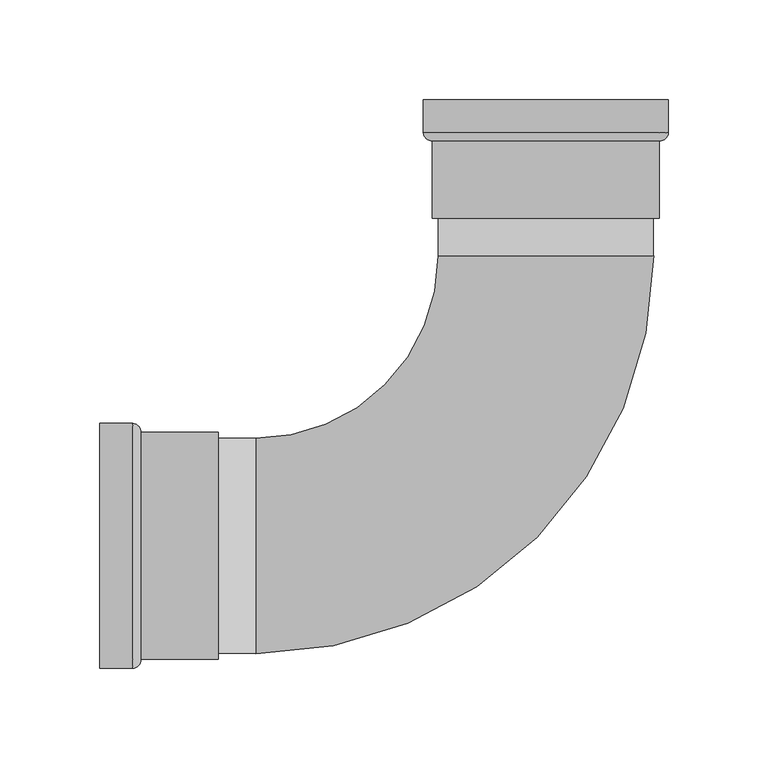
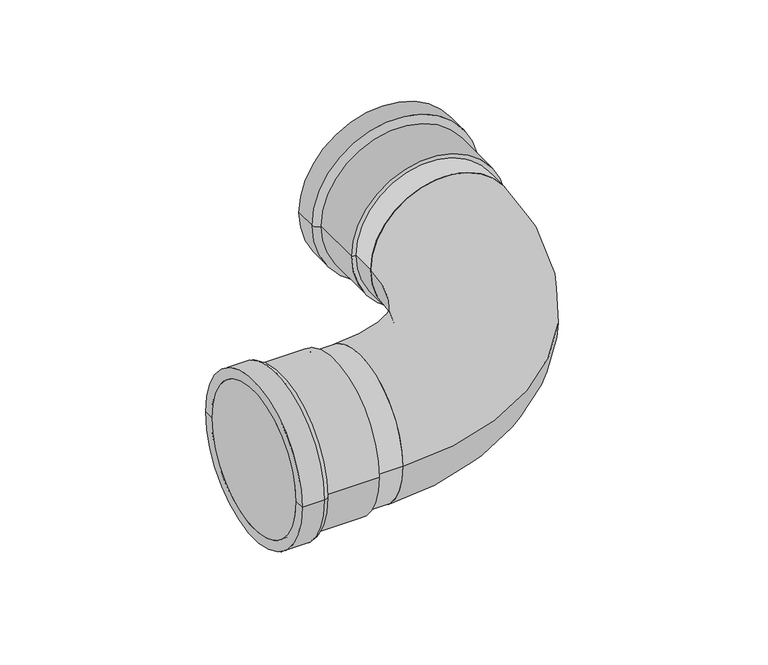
"""IFC4 building model written with IfcOpenShell, lengths in millimetres: pipe fitting geometry, VALTEC_VTi.951.I_Угольник 90° (раструб-раструб) нержавеющая сталь : VTi.951.I."""

from ifc_helpers import new_model, si_unit, point, frame, origin, origin_2d, place, context, project, spatial, polyline, circle_curve, ellipse_curve, trimmed, segment, composite_curve, outline, extrude, source, transform, mapped, element, save
from ifc_brep_helpers import plane_surface, cylinder_surface, revolved_surface, advanced_brep


def pipe_fitting_e467ed20(model_context):
    return source(origin(), model_context, "Body", "SolidModel", [
        advanced_brep(
        [(-224.0, -54.0, 0.0), (-224.0, 54.0, 0.0), (-224.0, 61.5, 0.0), (-224.0, -61.5, 0.0), (-164.5, -54.0, 0.0), (-164.5, 54.0, 0.0), (-164.5, -57.0, 0.0), (-164.5, 57.0, 0.0), (-203.28, -57.0, 0.0), (-203.28, 57.0, 0.0), (-207.3, -61.5, 0.0), (-207.3, 61.5, 0.0)],
        [
            (0, 1, circle_curve(frame((-224.0, 0.0, 0.0), z_axis=(1.0, 0.0, 0.0), x_axis=(0.0, 1.0, 0.0)), 54.0)),
            (1, 2),
            (2, 3, circle_curve(frame((-224.0, 0.0, 0.0), z_axis=(-1.0, 0.0, 0.0), x_axis=(0.0, 1.0, 0.0)), 61.5)),
            (3, 0),
            (1, 0, circle_curve(frame((-224.0, 0.0, 0.0), z_axis=(1.0, 0.0, 0.0), x_axis=(0.0, 1.0, 0.0)), 54.0)),
            (3, 2, circle_curve(frame((-224.0, 0.0, 0.0), z_axis=(-1.0, 0.0, 0.0), x_axis=(0.0, 1.0, 0.0)), 61.5)),
            (4, 5, circle_curve(frame((-164.5, 0.0, 0.0), z_axis=(1.0, 0.0, 0.0), x_axis=(0.0, 1.0, 0.0)), 54.0)),
            (5, 1),
            (0, 4),
            (5, 4, circle_curve(frame((-164.5, 0.0, 0.0), z_axis=(1.0, 0.0, 0.0), x_axis=(0.0, 1.0, 0.0)), 54.0)),
            (6, 7, circle_curve(frame((-164.5, 0.0, 0.0), z_axis=(1.0, 0.0, 0.0), x_axis=(0.0, 1.0, 0.0)), 57.0)),
            (7, 5),
            (4, 6),
            (7, 6, circle_curve(frame((-164.5, 0.0, 0.0), z_axis=(1.0, 0.0, 0.0), x_axis=(0.0, 1.0, 0.0)), 57.0)),
            (8, 9, circle_curve(frame((-203.28, 0.0, 0.0), z_axis=(1.0, 0.0, 0.0), x_axis=(0.0, 1.0, 0.0)), 57.0)),
            (9, 7),
            (6, 8),
            (9, 8, circle_curve(frame((-203.28, 0.0, 0.0), z_axis=(1.0, 0.0, 0.0), x_axis=(0.0, 1.0, 0.0)), 57.0)),
            (10, 11, circle_curve(frame((-207.3, 0.0, 0.0), z_axis=(1.0, 0.0, 0.0), x_axis=(0.0, 1.0, 0.0)), 61.5)),
            (11, 9, circle_curve(frame((-207.6828974, 57.112345, 0.0), z_axis=(0.0, 0.0, -1.0), x_axis=(1.0, 0.0, 0.0)), 4.4043305)),
            (8, 10, circle_curve(frame((-207.6828974, -57.112345, 0.0), z_axis=(0.0, 0.0, -1.0), x_axis=(1.0, 0.0, 0.0)), 4.4043305)),
            (11, 10, circle_curve(frame((-207.3, 0.0, 0.0), z_axis=(1.0, 0.0, 0.0), x_axis=(0.0, 1.0, 0.0)), 61.5)),
            (2, 11),
            (10, 3),
        ],
        [
            plane_surface(frame((-224.0, 0.0, 0.0), z_axis=(-1.0, 0.0, 0.0), x_axis=(0.0, 1.0, 0.0))),
            revolved_surface(polyline([(-224.0, 54.0, 0.0), (-164.5, 54.0, 0.0)]), (-193.6806392, 0.0, 0.0), (-1.0, 0.0, 0.0)),
            plane_surface(frame((-164.5, 0.0, 0.0), z_axis=(1.0, 0.0, 0.0), x_axis=(0.0, 1.0, 0.0))),
            cylinder_surface(frame((-193.6806392, 0.0, 0.0), z_axis=(-1.0, 0.0, 0.0), x_axis=(0.0, 1.0, 0.0)), 57.0),
            revolved_surface(trimmed(ellipse_curve(frame((-207.6828974, 57.112345, 0.0), z_axis=(0.0, 0.0, 1.0), x_axis=(1.0, 0.0, 0.0)), 4.4043305, 4.4043305), [point((-203.28, 57.0, 0.0))], [point((-207.3, 61.5, 0.0))], True, "CARTESIAN"), (-193.6806392, 0.0, 0.0), (-1.0, 0.0, 0.0)),
            cylinder_surface(frame((-193.6806392, 0.0, 0.0), z_axis=(-1.0, 0.0, 0.0), x_axis=(0.0, 1.0, 0.0)), 61.5),
        ],
        [
            (0, [[1, 2, 3, 4]]),
            (0, [[5, -4, 6, -2]]),
            (1, [[7, 8, -1, 9]]),
            (1, [[10, -9, -5, -8]]),
            (2, [[11, 12, -7, 13]]),
            (2, [[14, -13, -10, -12]]),
            (3, [[15, 16, -11, 17]]),
            (3, [[18, -17, -14, -16]]),
            (4, [[19, 20, -15, 21]]),
            (4, [[22, -21, -18, -20]]),
            (5, [[-3, 23, -19, 24]]),
            (5, [[-6, -24, -22, -23]]),
        ],
    ),
        advanced_brep(
        [(-54.0, 224.0, 0.0), (54.0, 224.0, 0.0), (61.5, 224.0, 0.0), (-61.5, 224.0, 0.0), (-54.0, 164.5, 0.0), (54.0, 164.5, 0.0), (-57.0, 164.5, 0.0), (57.0, 164.5, 0.0), (-57.0, 203.28, 0.0), (57.0, 203.28, 0.0), (-61.5, 207.3, 0.0), (61.5, 207.3, 0.0)],
        [
            (0, 1, circle_curve(frame((0.0, 224.0, 0.0), z_axis=(0.0, -1.0, 0.0), x_axis=(1.0, 0.0, 0.0)), 54.0)),
            (1, 2),
            (2, 3, circle_curve(frame((0.0, 224.0, 0.0), z_axis=(0.0, 1.0, 0.0), x_axis=(1.0, 0.0, 0.0)), 61.5)),
            (3, 0),
            (1, 0, circle_curve(frame((0.0, 224.0, 0.0), z_axis=(0.0, -1.0, 0.0), x_axis=(1.0, 0.0, 0.0)), 54.0)),
            (3, 2, circle_curve(frame((0.0, 224.0, 0.0), z_axis=(0.0, 1.0, 0.0), x_axis=(1.0, 0.0, 0.0)), 61.5)),
            (4, 5, circle_curve(frame((0.0, 164.5, 0.0), z_axis=(0.0, -1.0, 0.0), x_axis=(1.0, 0.0, 0.0)), 54.0)),
            (5, 1),
            (0, 4),
            (5, 4, circle_curve(frame((0.0, 164.5, 0.0), z_axis=(0.0, -1.0, 0.0), x_axis=(1.0, 0.0, 0.0)), 54.0)),
            (6, 7, circle_curve(frame((0.0, 164.5, 0.0), z_axis=(0.0, -1.0, 0.0), x_axis=(1.0, 0.0, 0.0)), 57.0)),
            (7, 5),
            (4, 6),
            (7, 6, circle_curve(frame((0.0, 164.5, 0.0), z_axis=(0.0, -1.0, 0.0), x_axis=(1.0, 0.0, 0.0)), 57.0)),
            (8, 9, circle_curve(frame((0.0, 203.28, 0.0), z_axis=(0.0, -1.0, 0.0), x_axis=(1.0, 0.0, 0.0)), 57.0)),
            (9, 7),
            (6, 8),
            (9, 8, circle_curve(frame((0.0, 203.28, 0.0), z_axis=(0.0, -1.0, 0.0), x_axis=(1.0, 0.0, 0.0)), 57.0)),
            (10, 11, circle_curve(frame((0.0, 207.3, 0.0), z_axis=(0.0, -1.0, 0.0), x_axis=(1.0, 0.0, 0.0)), 61.5)),
            (11, 9, circle_curve(frame((57.112345, 207.6828974, 0.0), z_axis=(0.0, 0.0, -1.0), x_axis=(0.0, -1.0, 0.0)), 4.4043305)),
            (8, 10, circle_curve(frame((-57.112345, 207.6828974, 0.0), z_axis=(0.0, 0.0, -1.0), x_axis=(0.0, -1.0, 0.0)), 4.4043305)),
            (11, 10, circle_curve(frame((0.0, 207.3, 0.0), z_axis=(0.0, -1.0, 0.0), x_axis=(1.0, 0.0, 0.0)), 61.5)),
            (2, 11),
            (10, 3),
        ],
        [
            plane_surface(frame((0.0, 224.0, 0.0), z_axis=(0.0, 1.0, 0.0), x_axis=(1.0, 0.0, 0.0))),
            revolved_surface(polyline([(54.0, 224.0, 0.0), (54.0, 164.5, 0.0)]), (0.0, 193.6806392, 0.0), (0.0, 1.0, 0.0)),
            plane_surface(frame((0.0, 164.5, 0.0), z_axis=(0.0, -1.0, 0.0), x_axis=(1.0, 0.0, 0.0))),
            cylinder_surface(frame((0.0, 193.6806392, 0.0), z_axis=(0.0, 1.0, 0.0), x_axis=(1.0, 0.0, 0.0)), 57.0),
            revolved_surface(trimmed(ellipse_curve(frame((57.112345, 207.6828974, 0.0), z_axis=(0.0, 0.0, 1.0), x_axis=(0.0, -1.0, 0.0)), 4.4043305, 4.4043305), [point((57.0, 203.28, 0.0))], [point((61.5, 207.3, 0.0))], True, "CARTESIAN"), (0.0, 193.6806392, 0.0), (0.0, 1.0, 0.0)),
            cylinder_surface(frame((0.0, 193.6806392, 0.0), z_axis=(0.0, 1.0, 0.0), x_axis=(1.0, 0.0, 0.0)), 61.5),
        ],
        [
            (0, [[1, 2, 3, 4]]),
            (0, [[5, -4, 6, -2]]),
            (1, [[7, 8, -1, 9]]),
            (1, [[10, -9, -5, -8]]),
            (2, [[11, 12, -7, 13]]),
            (2, [[14, -13, -10, -12]]),
            (3, [[15, 16, -11, 17]]),
            (3, [[18, -17, -14, -16]]),
            (4, [[19, 20, -15, 21]]),
            (4, [[22, -21, -18, -20]]),
            (5, [[-3, 23, -19, 24]]),
            (5, [[-6, -24, -22, -23]]),
        ],
    ),
        extrude(outline(composite_curve([segment(trimmed(circle_curve(origin_2d(), 54.0), [point((-54.0, 0.0))], [point((54.0, 0.0))], False, "CARTESIAN"), True, "CONTINUOUS"), segment(trimmed(circle_curve(origin_2d(), 54.0), [point((54.0, 0.0))], [point((-54.0, 0.0))], False, "CARTESIAN"), True, "CONTINUOUS")], self_intersect=False)), frame((-224.0, 0.0, 0.0), z_axis=(1.0, 0.0, 0.0), x_axis=(0.0, 1.0, 0.0)), (0.0, 0.0, 1.0), 78.4),
        extrude(outline(composite_curve([segment(trimmed(circle_curve(origin_2d(), 54.0), [point((0.0, -54.0))], [point((0.0, 54.0))], False, "CARTESIAN"), True, "CONTINUOUS"), segment(trimmed(circle_curve(origin_2d(), 54.0), [point((0.0, 54.0))], [point((0.0, -54.0))], False, "CARTESIAN"), True, "CONTINUOUS")], self_intersect=False)), frame((0.0, 145.6, 0.0), z_axis=(0.0, 1.0, 0.0), x_axis=(0.0, 0.0, 1.0)), (0.0, 0.0, 1.0), 78.4),
        advanced_brep(
        [(-145.6, -54.0551605, 0.0), (-145.6, 53.9448395, 0.0), (54.0551605, 145.6, 0.0), (-53.9448395, 145.6, 0.0)],
        [
            (0, 1, circle_curve(frame((-145.6, -0.0551605, 0.0), z_axis=(-1.0, 0.0, 0.0), x_axis=(0.0, 1.0, 0.0)), 54.0)),
            (1, 0, circle_curve(frame((-145.6, -0.0551605, 0.0), z_axis=(-1.0, 0.0, 0.0), x_axis=(0.0, 1.0, 0.0)), 54.0)),
            (2, 3, circle_curve(frame((0.0551605, 145.6, 0.0), z_axis=(0.0, 1.0, 0.0), x_axis=(-1.0, 0.0, 0.0)), 54.0)),
            (3, 2, circle_curve(frame((0.0551605, 145.6, 0.0), z_axis=(0.0, 1.0, 0.0), x_axis=(-1.0, 0.0, 0.0)), 54.0)),
            (3, 1, circle_curve(frame((-145.6, 145.6, 0.0), z_axis=(0.0, 0.0, -1.0), x_axis=(0.0, -1.0, 0.0)), 91.6551605)),
            (0, 2, circle_curve(frame((-145.6, 145.6, 0.0), z_axis=(0.0, 0.0, 1.0), x_axis=(0.0, -1.0, 0.0)), 199.6551605)),
        ],
        [
            plane_surface(frame((-145.6, 0.0, 0.0), z_axis=(-1.0, 0.0, 0.0), x_axis=(0.0, 0.0, 1.0))),
            plane_surface(frame((0.0, 145.6, 0.0), z_axis=(0.0, 1.0, 0.0), x_axis=(0.0, 0.0, 1.0))),
            revolved_surface(trimmed(ellipse_curve(frame((-145.6, -0.0551605, 0.0), z_axis=(-1.0, 0.0, 0.0), x_axis=(0.0, 1.0, 0.0)), 54.0, 54.0), [point((-145.6, -54.0551605, 0.0))], [point((-145.6, 53.9448395, 0.0))], True, "CARTESIAN"), (-145.6, 145.6, 0.0), (0.0, 0.0, 1.0)),
            revolved_surface(trimmed(ellipse_curve(frame((-145.6, -0.0551605, 0.0), z_axis=(-1.0, 0.0, 0.0), x_axis=(0.0, 1.0, 0.0)), 54.0, 54.0), [point((-145.6, 53.9448395, 0.0))], [point((-145.6, -54.0551605, 0.0))], True, "CARTESIAN"), (-145.6, 145.6, 0.0), (0.0, 0.0, 1.0)),
        ],
        [
            (0, [[1, 2]]),
            (1, [[3, 4]]),
            (2, [[5, -1, 6, -4]]),
            (3, [[-6, -2, -5, -3]]),
        ],
    ),
    ])


if __name__ == "__main__":
    model = new_model("IFC4")
    model_context = context("Model", 3, world=origin())
    ifc_project = project(units=[si_unit("LENGTHUNIT", "METRE", prefix="MILLI")], contexts=[model_context])
    site = spatial("IfcSite", under=ifc_project)
    building = spatial("IfcBuilding", under=site)
    placement = place(None, origin())
    pipe_fitting_shape = pipe_fitting_e467ed20(model_context)
    element("IfcPipeFitting", 1, ObjectType="VALTEC_VTi.951.I_Угольник 90° (раструб-раструб) нержавеющая сталь : VTi.951.I", at=placement, inside=building, context=model_context, shape_type="MappedRepresentation", body=[
        mapped(pipe_fitting_shape, transform((0.0, 0.0, 0.0), x_axis=(1.0, 0.0, 0.0), y_axis=(0.0, 1.0, 0.0), z_axis=(0.0, 0.0, 1.0))),
    ])
    save(model, "model.ifc")
